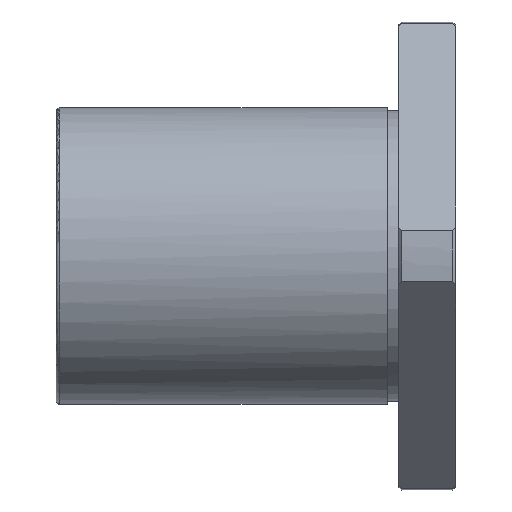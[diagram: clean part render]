
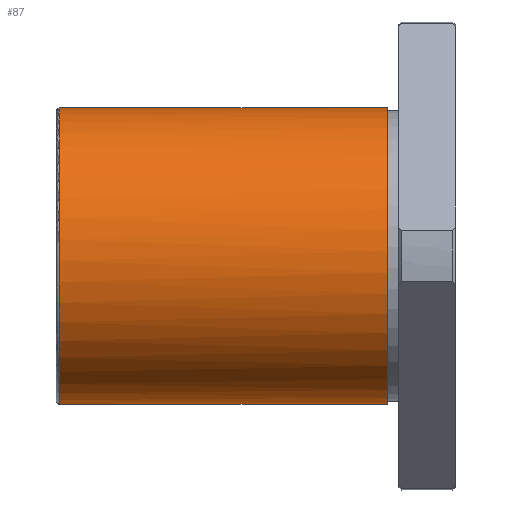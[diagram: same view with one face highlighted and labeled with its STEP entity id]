
A CAD part, front view. The second image highlights one B-rep face of the part: STEP entity #87.
In plain terms, the highlighted cylindrical face has radius 26 mm (diameter 52 mm), a full revolution.
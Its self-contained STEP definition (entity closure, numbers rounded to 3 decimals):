
#87=ADVANCED_FACE('',(#140,#141),#142,.T.);
#140=FACE_OUTER_BOUND('',#270,.T.);
#141=FACE_OUTER_BOUND('',#271,.T.);
#142=CYLINDRICAL_SURFACE('',#272,26.0);
#270=EDGE_LOOP('',(#458));
#271=EDGE_LOOP('',(#459));
#272=AXIS2_PLACEMENT_3D('',#460,#461,#462);
#458=ORIENTED_EDGE('',*,*,#611,.T.);
#459=ORIENTED_EDGE('',*,*,#612,.T.);
#460=CARTESIAN_POINT('',(-40.7,0.0,0.));
#461=DIRECTION('',(-1.0,-0.0,0.));
#462=DIRECTION('',(0.0,1.0,0.0));
#611=EDGE_CURVE('',#683,#683,#684,.T.);
#612=EDGE_CURVE('',#685,#685,#686,.T.);
#683=VERTEX_POINT('',#843);
#684=B_SPLINE_CURVE_WITH_KNOTS('',3,(#844,#845,#846,#847,#848,#849,#850,#851,#852,#853,#854,#855,#856,#857,#858,#859,#860,#861,#862,#863,#864,#865,#866,#867,#868,#869,#870,#871,#872,#873,#874,#875,#876,#877,#878,#879,#880,#881,#882,#883,#884,#885,#886,#887,#888,#889,#890,#891,#892,#893,#894,#895,#896,#897,#898,#899,#900,#901,#902,#903,#904,#905,#906,#907,#908,#909),.UNSPECIFIED.,.T.,.F.,(2,2,2,2,2,2,2,2,2,2,2,2,2,2,2,2,2,2,2,2,2,2,2,2,2,2,2,2,2,2,2,2,2,2,2),(-0.031,0.0,0.031,0.063,0.094,0.125,0.156,0.188,0.219,0.25,0.281,0.313,0.344,0.375,0.406,0.438,0.469,0.5,0.531,0.563,0.594,0.625,0.656,0.688,0.719,0.75,0.781,0.813,0.844,0.875,0.906,0.938,0.969,1.0,1.031),.UNSPECIFIED.);
#685=VERTEX_POINT('',#910);
#686=B_SPLINE_CURVE_WITH_KNOTS('',3,(#911,#912,#913,#914,#915,#916,#917,#918,#919,#920,#921,#922,#923,#924,#925,#926,#927,#928,#929,#930,#931,#932,#933,#934,#935,#936,#937,#938,#939,#940,#941,#942,#943,#944,#945,#946,#947,#948,#949,#950,#951,#952,#953,#954,#955,#956,#957,#958,#959,#960,#961,#962,#963,#964,#965,#966,#967,#968,#969,#970,#971,#972,#973,#974,#975,#976),.UNSPECIFIED.,.T.,.F.,(2,2,2,2,2,2,2,2,2,2,2,2,2,2,2,2,2,2,2,2,2,2,2,2,2,2,2,2,2,2,2,2,2,2,2),(-0.031,0.0,0.031,0.063,0.094,0.125,0.156,0.188,0.219,0.25,0.281,0.313,0.344,0.375,0.406,0.438,0.469,0.5,0.531,0.563,0.594,0.625,0.656,0.688,0.719,0.75,0.781,0.813,0.844,0.875,0.906,0.938,0.969,1.0,1.031),.UNSPECIFIED.);
#843=CARTESIAN_POINT('',(-12.0,26.0,0.));
#844=CARTESIAN_POINT('',(-12.0,26.0,1.702));
#845=CARTESIAN_POINT('',(-12.0,26.0,-1.702));
#846=CARTESIAN_POINT('',(-12.0,25.832,-3.403));
#847=CARTESIAN_POINT('',(-12.0,25.168,-6.741));
#848=CARTESIAN_POINT('',(-12.0,24.672,-8.378));
#849=CARTESIAN_POINT('',(-12.0,23.37,-11.522));
#850=CARTESIAN_POINT('',(-12.0,22.564,-13.03));
#851=CARTESIAN_POINT('',(-12.0,20.673,-15.86));
#852=CARTESIAN_POINT('',(-12.0,19.588,-17.181));
#853=CARTESIAN_POINT('',(-12.0,17.181,-19.588));
#854=CARTESIAN_POINT('',(-12.0,15.86,-20.673));
#855=CARTESIAN_POINT('',(-12.0,13.03,-22.564));
#856=CARTESIAN_POINT('',(-12.0,11.522,-23.37));
#857=CARTESIAN_POINT('',(-12.0,8.378,-24.672));
#858=CARTESIAN_POINT('',(-12.0,6.741,-25.168));
#859=CARTESIAN_POINT('',(-12.0,3.403,-25.832));
#860=CARTESIAN_POINT('',(-12.0,1.702,-26.));
#861=CARTESIAN_POINT('',(-12.0,-1.702,-26.));
#862=CARTESIAN_POINT('',(-12.0,-3.403,-25.832));
#863=CARTESIAN_POINT('',(-12.0,-6.741,-25.168));
#864=CARTESIAN_POINT('',(-12.0,-8.378,-24.672));
#865=CARTESIAN_POINT('',(-12.0,-11.522,-23.37));
#866=CARTESIAN_POINT('',(-12.0,-13.03,-22.564));
#867=CARTESIAN_POINT('',(-12.0,-15.86,-20.673));
#868=CARTESIAN_POINT('',(-12.0,-17.181,-19.588));
#869=CARTESIAN_POINT('',(-12.0,-19.588,-17.181));
#870=CARTESIAN_POINT('',(-12.0,-20.673,-15.86));
#871=CARTESIAN_POINT('',(-12.0,-22.564,-13.03));
#872=CARTESIAN_POINT('',(-12.0,-23.37,-11.522));
#873=CARTESIAN_POINT('',(-12.0,-24.672,-8.378));
#874=CARTESIAN_POINT('',(-12.0,-25.168,-6.741));
#875=CARTESIAN_POINT('',(-12.0,-25.832,-3.403));
#876=CARTESIAN_POINT('',(-12.0,-26.0,-1.702));
#877=CARTESIAN_POINT('',(-12.0,-26.0,1.702));
#878=CARTESIAN_POINT('',(-12.0,-25.832,3.403));
#879=CARTESIAN_POINT('',(-12.0,-25.168,6.741));
#880=CARTESIAN_POINT('',(-12.0,-24.672,8.378));
#881=CARTESIAN_POINT('',(-12.0,-23.37,11.522));
#882=CARTESIAN_POINT('',(-12.0,-22.564,13.03));
#883=CARTESIAN_POINT('',(-12.0,-20.673,15.86));
#884=CARTESIAN_POINT('',(-12.0,-19.588,17.181));
#885=CARTESIAN_POINT('',(-12.0,-17.181,19.588));
#886=CARTESIAN_POINT('',(-12.0,-15.86,20.673));
#887=CARTESIAN_POINT('',(-12.0,-13.03,22.564));
#888=CARTESIAN_POINT('',(-12.0,-11.522,23.37));
#889=CARTESIAN_POINT('',(-12.0,-8.378,24.672));
#890=CARTESIAN_POINT('',(-12.0,-6.741,25.168));
#891=CARTESIAN_POINT('',(-12.0,-3.403,25.832));
#892=CARTESIAN_POINT('',(-12.0,-1.702,26.));
#893=CARTESIAN_POINT('',(-12.0,1.702,26.));
#894=CARTESIAN_POINT('',(-12.0,3.403,25.832));
#895=CARTESIAN_POINT('',(-12.0,6.741,25.168));
#896=CARTESIAN_POINT('',(-12.0,8.378,24.672));
#897=CARTESIAN_POINT('',(-12.0,11.522,23.37));
#898=CARTESIAN_POINT('',(-12.0,13.03,22.564));
#899=CARTESIAN_POINT('',(-12.0,15.86,20.673));
#900=CARTESIAN_POINT('',(-12.0,17.181,19.588));
#901=CARTESIAN_POINT('',(-12.0,19.588,17.181));
#902=CARTESIAN_POINT('',(-12.0,20.673,15.86));
#903=CARTESIAN_POINT('',(-12.0,22.564,13.03));
#904=CARTESIAN_POINT('',(-12.0,23.37,11.522));
#905=CARTESIAN_POINT('',(-12.0,24.672,8.378));
#906=CARTESIAN_POINT('',(-12.0,25.168,6.741));
#907=CARTESIAN_POINT('',(-12.0,25.832,3.403));
#908=CARTESIAN_POINT('',(-12.0,26.0,1.702));
#909=CARTESIAN_POINT('',(-12.0,26.0,-1.702));
#910=CARTESIAN_POINT('',(-69.4,26.0,0.));
#911=CARTESIAN_POINT('',(-69.4,26.0,-1.702));
#912=CARTESIAN_POINT('',(-69.4,26.0,1.702));
#913=CARTESIAN_POINT('',(-69.4,25.832,3.403));
#914=CARTESIAN_POINT('',(-69.4,25.168,6.741));
#915=CARTESIAN_POINT('',(-69.4,24.672,8.378));
#916=CARTESIAN_POINT('',(-69.4,23.37,11.522));
#917=CARTESIAN_POINT('',(-69.4,22.564,13.03));
#918=CARTESIAN_POINT('',(-69.4,20.673,15.86));
#919=CARTESIAN_POINT('',(-69.4,19.588,17.181));
#920=CARTESIAN_POINT('',(-69.4,17.181,19.588));
#921=CARTESIAN_POINT('',(-69.4,15.86,20.673));
#922=CARTESIAN_POINT('',(-69.4,13.03,22.564));
#923=CARTESIAN_POINT('',(-69.4,11.522,23.37));
#924=CARTESIAN_POINT('',(-69.4,8.378,24.672));
#925=CARTESIAN_POINT('',(-69.4,6.741,25.168));
#926=CARTESIAN_POINT('',(-69.4,3.403,25.832));
#927=CARTESIAN_POINT('',(-69.4,1.702,26.));
#928=CARTESIAN_POINT('',(-69.4,-1.702,26.));
#929=CARTESIAN_POINT('',(-69.4,-3.403,25.832));
#930=CARTESIAN_POINT('',(-69.4,-6.741,25.168));
#931=CARTESIAN_POINT('',(-69.4,-8.378,24.672));
#932=CARTESIAN_POINT('',(-69.4,-11.522,23.37));
#933=CARTESIAN_POINT('',(-69.4,-13.03,22.564));
#934=CARTESIAN_POINT('',(-69.4,-15.86,20.673));
#935=CARTESIAN_POINT('',(-69.4,-17.181,19.588));
#936=CARTESIAN_POINT('',(-69.4,-19.588,17.181));
#937=CARTESIAN_POINT('',(-69.4,-20.673,15.86));
#938=CARTESIAN_POINT('',(-69.4,-22.564,13.03));
#939=CARTESIAN_POINT('',(-69.4,-23.37,11.522));
#940=CARTESIAN_POINT('',(-69.4,-24.672,8.378));
#941=CARTESIAN_POINT('',(-69.4,-25.168,6.741));
#942=CARTESIAN_POINT('',(-69.4,-25.832,3.403));
#943=CARTESIAN_POINT('',(-69.4,-26.0,1.702));
#944=CARTESIAN_POINT('',(-69.4,-26.0,-1.702));
#945=CARTESIAN_POINT('',(-69.4,-25.832,-3.403));
#946=CARTESIAN_POINT('',(-69.4,-25.168,-6.741));
#947=CARTESIAN_POINT('',(-69.4,-24.672,-8.378));
#948=CARTESIAN_POINT('',(-69.4,-23.37,-11.522));
#949=CARTESIAN_POINT('',(-69.4,-22.564,-13.03));
#950=CARTESIAN_POINT('',(-69.4,-20.673,-15.86));
#951=CARTESIAN_POINT('',(-69.4,-19.588,-17.181));
#952=CARTESIAN_POINT('',(-69.4,-17.181,-19.588));
#953=CARTESIAN_POINT('',(-69.4,-15.86,-20.673));
#954=CARTESIAN_POINT('',(-69.4,-13.03,-22.564));
#955=CARTESIAN_POINT('',(-69.4,-11.522,-23.37));
#956=CARTESIAN_POINT('',(-69.4,-8.378,-24.672));
#957=CARTESIAN_POINT('',(-69.4,-6.741,-25.168));
#958=CARTESIAN_POINT('',(-69.4,-3.403,-25.832));
#959=CARTESIAN_POINT('',(-69.4,-1.702,-26.));
#960=CARTESIAN_POINT('',(-69.4,1.702,-26.));
#961=CARTESIAN_POINT('',(-69.4,3.403,-25.832));
#962=CARTESIAN_POINT('',(-69.4,6.741,-25.168));
#963=CARTESIAN_POINT('',(-69.4,8.378,-24.672));
#964=CARTESIAN_POINT('',(-69.4,11.522,-23.37));
#965=CARTESIAN_POINT('',(-69.4,13.03,-22.564));
#966=CARTESIAN_POINT('',(-69.4,15.86,-20.673));
#967=CARTESIAN_POINT('',(-69.4,17.181,-19.588));
#968=CARTESIAN_POINT('',(-69.4,19.588,-17.181));
#969=CARTESIAN_POINT('',(-69.4,20.673,-15.86));
#970=CARTESIAN_POINT('',(-69.4,22.564,-13.03));
#971=CARTESIAN_POINT('',(-69.4,23.37,-11.522));
#972=CARTESIAN_POINT('',(-69.4,24.672,-8.378));
#973=CARTESIAN_POINT('',(-69.4,25.168,-6.741));
#974=CARTESIAN_POINT('',(-69.4,25.832,-3.403));
#975=CARTESIAN_POINT('',(-69.4,26.0,-1.702));
#976=CARTESIAN_POINT('',(-69.4,26.0,1.702));
